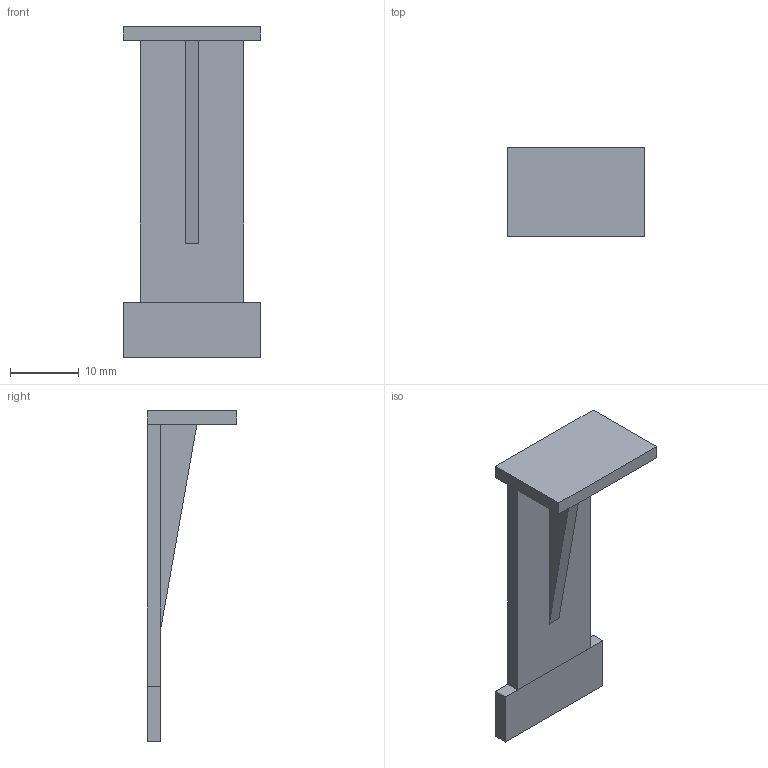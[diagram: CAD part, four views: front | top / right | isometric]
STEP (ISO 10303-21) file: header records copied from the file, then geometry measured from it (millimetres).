
FILE_DESCRIPTION (( 'STEP AP214' ), '1' );
FILE_NAME ('002319.STEP', '2022-02-21T08:16:24', ( '' ), ( '' ), 'SwSTEP 2.0', 'SolidWorks 2021', '' );
FILE_SCHEMA (( 'AUTOMOTIVE_DESIGN' ));
Length unit declared in the file: millimetre
Products named in the file (1): 002319
Bounding box: 20 x 13 x 48 mm (x, y, z)
Volume: 2133.9 mm3; surface area: 2520.4 mm2
Topology: 2 solids, 2 shells, 19 faces, 45 edges, 30 vertices
Faces by surface type: plane 19
Entity records: 582 total; most frequent: CARTESIAN_POINT 95, ORIENTED_EDGE 90, DIRECTION 85, EDGE_CURVE 45, VECTOR 45, LINE 45, VERTEX_POINT 30, AXIS2_PLACEMENT_3D 20
